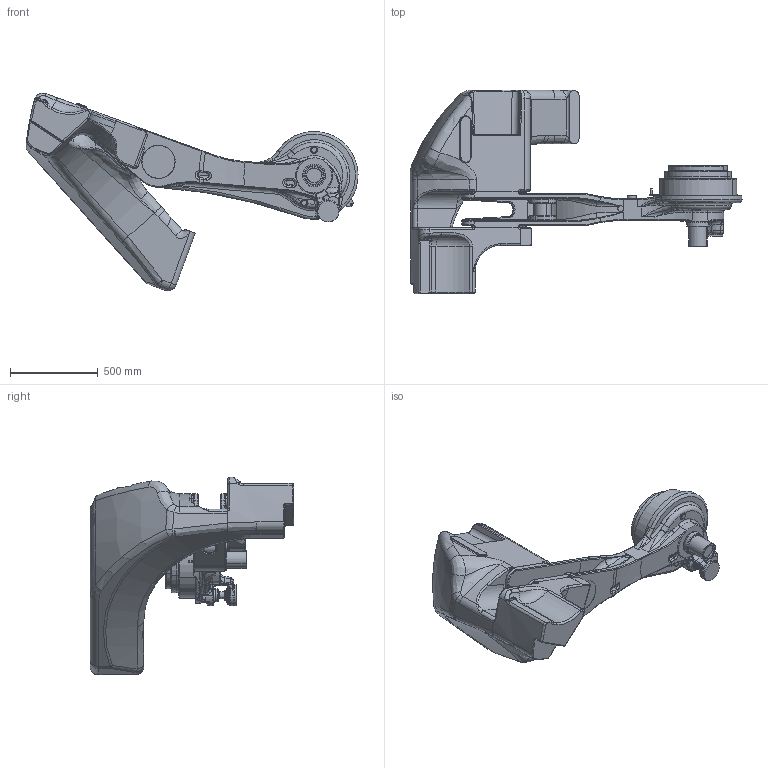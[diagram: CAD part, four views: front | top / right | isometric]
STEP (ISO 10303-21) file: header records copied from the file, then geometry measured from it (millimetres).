
FILE_DESCRIPTION(('CATIA V5 STEP Exchange','CAx-IF Rec.Pracs.--- Model Styling and Organization---1.2---2011-12-15','CAx-IF Rec.Pracs.--- Geometric and Assembly Validation Properties ---3.1---2011-10-19'),'2;1');
FILE_NAME('Z:\ROBOT\CATIA06\products\MC1000DL\Light_model\Step\030_J3_Hinge_MC1000DL-02.stp','2016-12-26T04:08:14+00:00',('none'),('none'),'Version 5-6 Release 2012','CATIA V5 STEP AP214','none');
FILE_SCHEMA(('AUTOMOTIVE_DESIGN { 1 0 10303 214 1 1 1 1 }'));
Length unit declared in the file: millimetre
Products named in the file (1): 030_J3_Hinge_MC1000DL-02
Bounding box: 1891.13 x 1160 x 1125.17 mm (x, y, z)
Volume: 270092350.7 mm3; surface area: 6022955.6 mm2
Topology: 16 solids, 16 shells, 1390 faces, 3242 edges, 1865 vertices
Faces by surface type: cylinder 410, bspline 319, torus 270, plane 237, cone 140, sphere 14
Entity records: 70708 total; most frequent: CARTESIAN_POINT 43281, ORIENTED_EDGE 6350, DIRECTION 3905, EDGE_CURVE 3175, AXIS2_PLACEMENT_3D 2151, VERTEX_POINT 1865, EDGE_LOOP 1460, ADVANCED_FACE 1390
